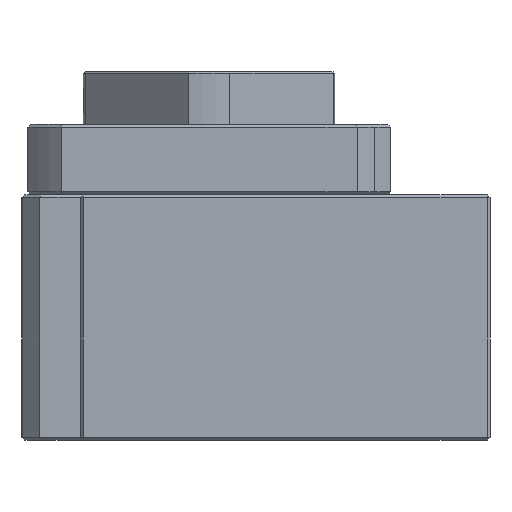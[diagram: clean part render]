
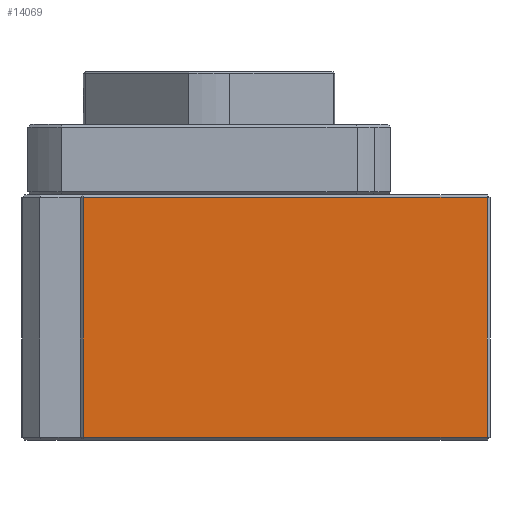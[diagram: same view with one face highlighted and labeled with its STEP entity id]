
A CAD part, left-side view. The second image highlights one B-rep face of the part: STEP entity #14069.
In plain terms, the highlighted planar face has unit normal (-1, 0, 0).
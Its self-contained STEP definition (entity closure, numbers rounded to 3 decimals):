
#2458 = VECTOR ( 'NONE', #4353, 1000. ) ;
#2459 = VECTOR ( 'NONE', #4356, 1000. ) ;
#2460 = VECTOR ( 'NONE', #4359, 1000. ) ;
#2461 = VECTOR ( 'NONE', #4362, 1000. ) ;
#3178 = PLANE ( 'NONE',  #12637 ) ;
#3179 = CARTESIAN_POINT ( 'NONE',  ( -53., 22., 21. ) ) ;
#3180 = DIRECTION ( 'NONE',  ( 1., 0., 0. ) ) ;
#3181 = DIRECTION ( 'NONE',  ( 0., 0., -1. ) ) ;
#4351 = LINE ( 'NONE', #4352, #2458 ) ;
#4352 = CARTESIAN_POINT ( 'NONE',  ( -53., 22., 20.5 ) ) ;
#4353 = DIRECTION ( 'NONE',  ( 0., 1., 0. ) ) ;
#4354 = LINE ( 'NONE', #4355, #2459 ) ;
#4355 = CARTESIAN_POINT ( 'NONE',  ( -53., -47.5, 21. ) ) ;
#4356 = DIRECTION ( 'NONE',  ( 0., 0., 1. ) ) ;
#4357 = LINE ( 'NONE', #4358, #2460 ) ;
#4358 = CARTESIAN_POINT ( 'NONE',  ( -53., 21.5, 21. ) ) ;
#4359 = DIRECTION ( 'NONE',  ( 0., 0., -1. ) ) ;
#4360 = LINE ( 'NONE', #4361, #2461 ) ;
#4361 = CARTESIAN_POINT ( 'NONE',  ( -53., 22., -20.5 ) ) ;
#4362 = DIRECTION ( 'NONE',  ( 0., -1., 0. ) ) ;
#5871 = EDGE_LOOP ( 'NONE', ( #6450, #6444, #6445, #6443 ) ) ;
#6443 = ORIENTED_EDGE ( 'NONE', *, *, #12065, .T. ) ;
#6444 = ORIENTED_EDGE ( 'NONE', *, *, #12068, .T. ) ;
#6445 = ORIENTED_EDGE ( 'NONE', *, *, #12066, .T. ) ;
#6450 = ORIENTED_EDGE ( 'NONE', *, *, #12067, .T. ) ;
#7107 = VERTEX_POINT ( 'NONE', #7657 ) ;
#7135 = VERTEX_POINT ( 'NONE', #7683 ) ;
#7144 = VERTEX_POINT ( 'NONE', #7692 ) ;
#7320 = VERTEX_POINT ( 'NONE', #7868 ) ;
#7657 = CARTESIAN_POINT ( 'NONE',  ( -53., 21.5, 20.5 ) ) ;
#7683 = CARTESIAN_POINT ( 'NONE',  ( -53., -47.5, -20.5 ) ) ;
#7692 = CARTESIAN_POINT ( 'NONE',  ( -53., 21.5, -20.5 ) ) ;
#7868 = CARTESIAN_POINT ( 'NONE',  ( -53., -47.5, 20.5 ) ) ;
#12065 = EDGE_CURVE ( 'NONE', #7320, #7107, #4351, .T. ) ;
#12066 = EDGE_CURVE ( 'NONE', #7135, #7320, #4354, .T. ) ;
#12067 = EDGE_CURVE ( 'NONE', #7107, #7144, #4357, .T. ) ;
#12068 = EDGE_CURVE ( 'NONE', #7144, #7135, #4360, .T. ) ;
#12636 = FACE_OUTER_BOUND ( 'NONE', #5871, .T. ) ;
#12637 = AXIS2_PLACEMENT_3D ( 'NONE', #3179, #3180, #3181 ) ;
#14069 = ADVANCED_FACE ( 'NONE', ( #12636 ), #3178, .F. ) ;
